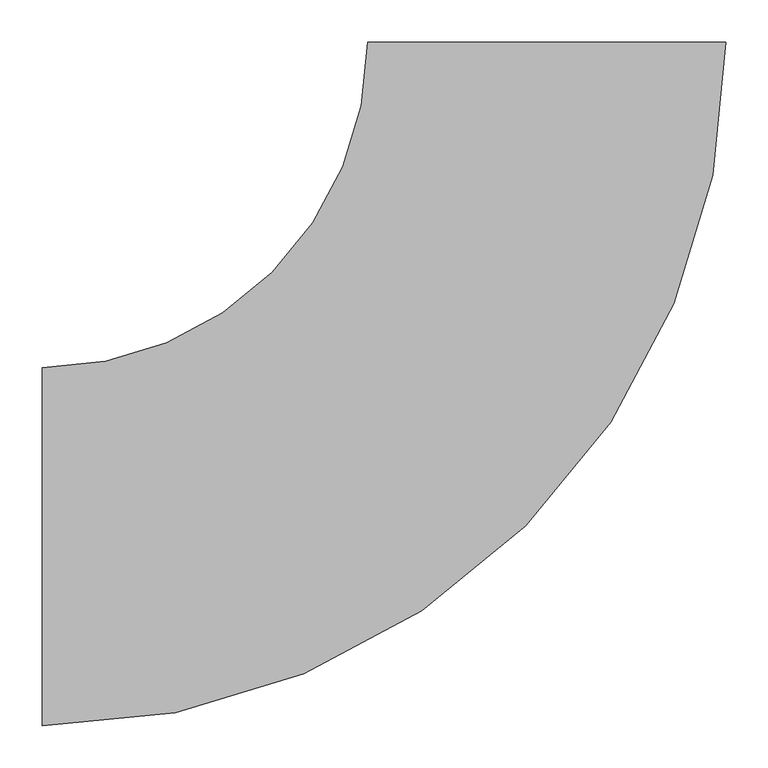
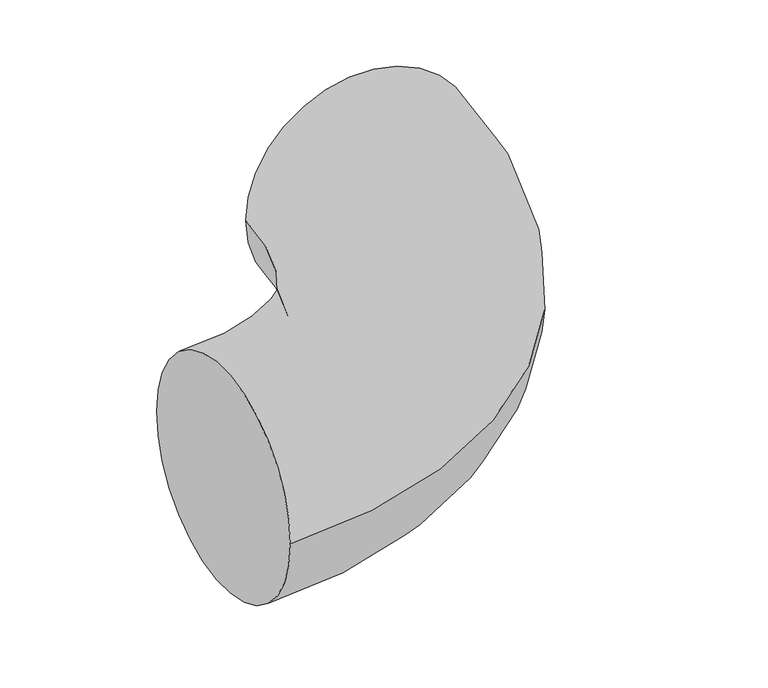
"""IFC4 building model written with IfcOpenShell, lengths in millimetres: pipe fitting geometry, ADSK_ДетальСтальнаяСварная_Отвод_ГОСТ17375-2001 : Исполнение 2."""

from ifc_helpers import new_model, si_unit, point, frame, origin, place, context, project, spatial, circle_curve, ellipse_curve, trimmed, source, transform, mapped, element, save
from ifc_brep_helpers import plane_surface, revolved_surface, advanced_brep


def pipe_fitting_3003cfb5(model_context):
    return source(origin(), model_context, "Body", "AdvancedBrep", [
        advanced_brep(
        [(-600.0, -213.0, 0.0), (-600.0, 213.0, 0.0), (213.0, 600.0, 0.0), (-213.0, 600.0, 0.0)],
        [
            (0, 1, circle_curve(frame((-600.0, 0.0, 0.0), z_axis=(-1.0, 0.0, 0.0), x_axis=(0.0, 1.0, 0.0)), 213.0)),
            (1, 0, circle_curve(frame((-600.0, 0.0, 0.0), z_axis=(-1.0, 0.0, 0.0), x_axis=(0.0, 1.0, 0.0)), 213.0)),
            (2, 3, circle_curve(frame((0.0, 600.0, 0.0), z_axis=(0.0, 1.0, 0.0), x_axis=(-1.0, 0.0, 0.0)), 213.0)),
            (3, 2, circle_curve(frame((0.0, 600.0, 0.0), z_axis=(0.0, 1.0, 0.0), x_axis=(-1.0, 0.0, 0.0)), 213.0)),
            (3, 1, circle_curve(frame((-600.0, 600.0, 0.0), z_axis=(0.0, 0.0, -1.0), x_axis=(0.0, -1.0, 0.0)), 387.0)),
            (0, 2, circle_curve(frame((-600.0, 600.0, 0.0), z_axis=(0.0, 0.0, 1.0), x_axis=(0.0, -1.0, 0.0)), 813.0)),
        ],
        [
            plane_surface(frame((-600.0, 0.0, 0.0), z_axis=(-1.0, 0.0, 0.0), x_axis=(0.0, 0.0, 1.0))),
            plane_surface(frame((0.0, 600.0, 0.0), z_axis=(0.0, 1.0, 0.0), x_axis=(0.0, 0.0, 1.0))),
            revolved_surface(trimmed(ellipse_curve(frame((-600.0, 0.0, 0.0), z_axis=(-1.0, 0.0, 0.0), x_axis=(0.0, 1.0, 0.0)), 213.0, 213.0), [point((-600.0, -213.0, 0.0))], [point((-600.0, 213.0, 0.0))], True, "CARTESIAN"), (-600.0, 600.0, 0.0), (0.0, 0.0, 1.0)),
            revolved_surface(trimmed(ellipse_curve(frame((-600.0, 0.0, 0.0), z_axis=(-1.0, 0.0, 0.0), x_axis=(0.0, 1.0, 0.0)), 213.0, 213.0), [point((-600.0, 213.0, 0.0))], [point((-600.0, -213.0, 0.0))], True, "CARTESIAN"), (-600.0, 600.0, 0.0), (0.0, 0.0, 1.0)),
        ],
        [
            (0, [[1, 2]]),
            (1, [[3, 4]]),
            (2, [[5, -1, 6, -4]]),
            (3, [[-6, -2, -5, -3]]),
        ],
    ),
    ])


if __name__ == "__main__":
    model = new_model("IFC4")
    model_context = context("Model", 3, world=origin())
    ifc_project = project(units=[si_unit("LENGTHUNIT", "METRE", prefix="MILLI")], contexts=[model_context])
    site = spatial("IfcSite", under=ifc_project)
    building = spatial("IfcBuilding", under=site)
    placement = place(None, origin())
    pipe_fitting_shape = pipe_fitting_3003cfb5(model_context)
    element("IfcPipeFitting", 1, ObjectType="ADSK_ДетальСтальнаяСварная_Отвод_ГОСТ17375-2001 : Исполнение 2", at=placement, inside=building, context=model_context, shape_type="MappedRepresentation", body=[
        mapped(pipe_fitting_shape, transform((0.0, 0.0, 0.0), x_axis=(1.0, 0.0, 0.0), y_axis=(0.0, 1.0, 0.0), z_axis=(0.0, 0.0, 1.0))),
    ])
    save(model, "model.ifc")
